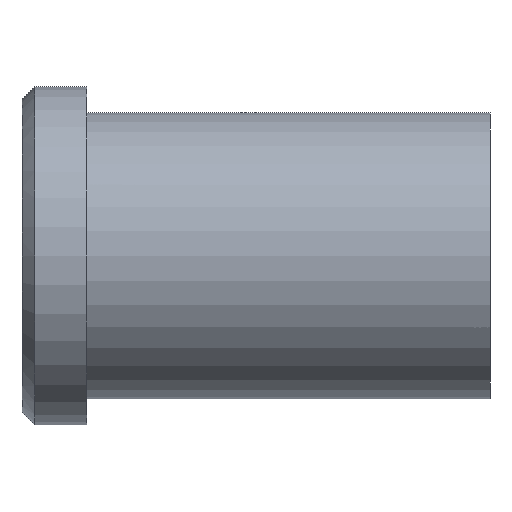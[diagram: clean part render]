
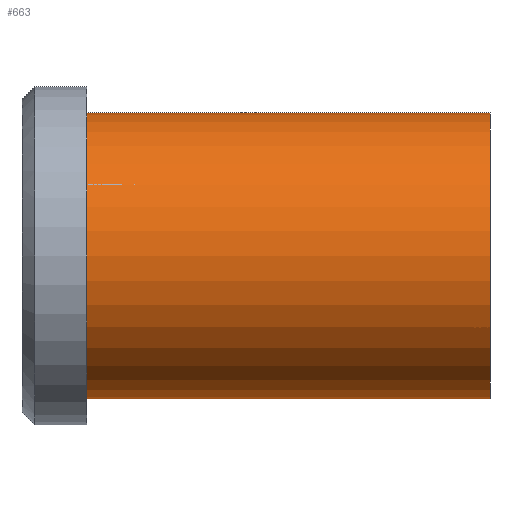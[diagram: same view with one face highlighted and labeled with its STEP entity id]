
A CAD part, front view. The second image highlights one B-rep face of the part: STEP entity #663.
In plain terms, the highlighted cylindrical face has radius 11 mm (diameter 22 mm), a partial arc.
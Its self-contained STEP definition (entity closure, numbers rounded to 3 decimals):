
#501=CARTESIAN_POINT('Vertex',(0.,0.,-11.)) ;
#506=CARTESIAN_POINT('Axis2P3D Location',(0.,0.,0.)) ;
#510=CARTESIAN_POINT('Vertex',(0.,-11.,0.)) ;
#513=CARTESIAN_POINT('Axis2P3D Location',(0.,0.,0.)) ;
#517=CARTESIAN_POINT('Vertex',(0.,0.,11.)) ;
#603=CARTESIAN_POINT('Line Origine',(31.,0.,11.)) ;
#607=CARTESIAN_POINT('Vertex',(31.,0.,11.)) ;
#621=CARTESIAN_POINT('Vertex',(31.,0.,-11.)) ;
#624=CARTESIAN_POINT('Line Origine',(31.,0.,-11.)) ;
#638=CARTESIAN_POINT('Axis2P3D Location',(31.,0.,0.)) ;
#643=CARTESIAN_POINT('Axis2P3D Location',(31.,0.,0.)) ;
#647=CARTESIAN_POINT('Vertex',(31.,-11.,0.)) ;
#650=CARTESIAN_POINT('Axis2P3D Location',(31.,0.,0.)) ;
#507=DIRECTION('Axis2P3D Direction',(1.,0.,-0.)) ;
#514=DIRECTION('Axis2P3D Direction',(1.,0.,-0.)) ;
#604=DIRECTION('Vector Direction',(-1.,0.,0.)) ;
#625=DIRECTION('Vector Direction',(-1.,0.,0.)) ;
#639=DIRECTION('Axis2P3D Direction',(-1.,-0.,-0.)) ;
#640=DIRECTION('Axis2P3D XDirection',(0.,0.,-1.)) ;
#644=DIRECTION('Axis2P3D Direction',(-1.,-0.,-0.)) ;
#651=DIRECTION('Axis2P3D Direction',(-1.,-0.,-0.)) ;
#508=AXIS2_PLACEMENT_3D('Circle Axis2P3D',#506,#507,$) ;
#515=AXIS2_PLACEMENT_3D('Circle Axis2P3D',#513,#514,$) ;
#641=AXIS2_PLACEMENT_3D('Cylinder Axis2P3D',#638,#639,#640) ;
#645=AXIS2_PLACEMENT_3D('Circle Axis2P3D',#643,#644,$) ;
#652=AXIS2_PLACEMENT_3D('Circle Axis2P3D',#650,#651,$) ;
#656=ORIENTED_EDGE('',*,*,#628,.T.) ;
#657=ORIENTED_EDGE('',*,*,#649,.F.) ;
#658=ORIENTED_EDGE('',*,*,#654,.F.) ;
#659=ORIENTED_EDGE('',*,*,#609,.T.) ;
#660=ORIENTED_EDGE('',*,*,#519,.T.) ;
#661=ORIENTED_EDGE('',*,*,#512,.T.) ;
#605=VECTOR('Line Direction',#604,1.) ;
#626=VECTOR('Line Direction',#625,1.) ;
#663=ADVANCED_FACE('353-16X36',(#662),#642,.T.) ;
#509=CIRCLE('generated circle',#508,11.) ;
#516=CIRCLE('generated circle',#515,11.) ;
#646=CIRCLE('generated circle',#645,11.) ;
#653=CIRCLE('generated circle',#652,11.) ;
#642=CYLINDRICAL_SURFACE('generated cylinder',#641,11.) ;
#512=EDGE_CURVE('',#511,#502,#509,.T.) ;
#519=EDGE_CURVE('',#518,#511,#516,.T.) ;
#609=EDGE_CURVE('',#608,#518,#606,.T.) ;
#628=EDGE_CURVE('',#502,#622,#627,.F.) ;
#649=EDGE_CURVE('',#648,#622,#646,.F.) ;
#654=EDGE_CURVE('',#608,#648,#653,.F.) ;
#655=EDGE_LOOP('',(#656,#657,#658,#659,#660,#661)) ;
#662=FACE_OUTER_BOUND('',#655,.T.) ;
#606=LINE('Line',#603,#605) ;
#627=LINE('Line',#624,#626) ;
#502=VERTEX_POINT('',#501) ;
#511=VERTEX_POINT('',#510) ;
#518=VERTEX_POINT('',#517) ;
#608=VERTEX_POINT('',#607) ;
#622=VERTEX_POINT('',#621) ;
#648=VERTEX_POINT('',#647) ;
